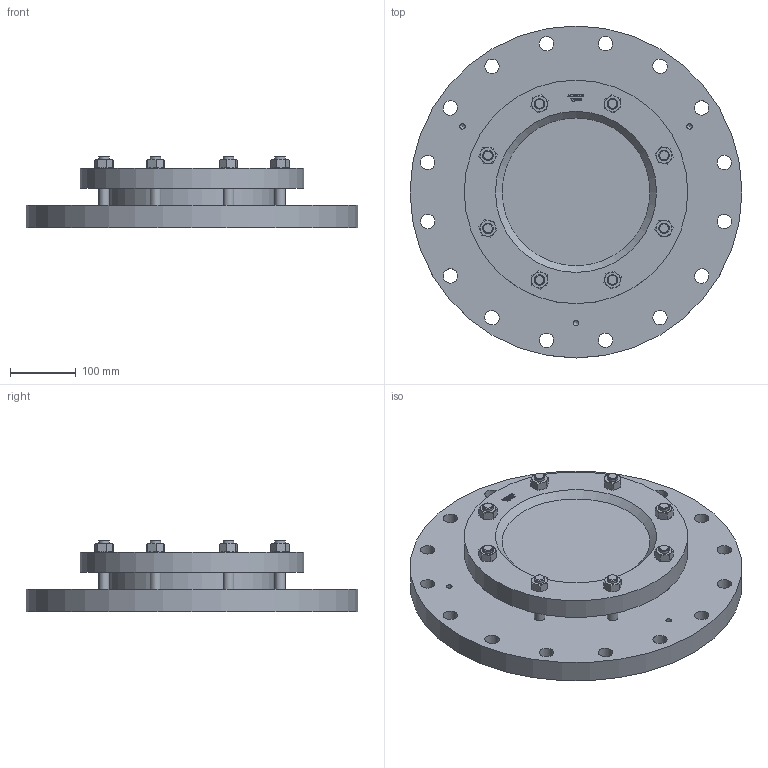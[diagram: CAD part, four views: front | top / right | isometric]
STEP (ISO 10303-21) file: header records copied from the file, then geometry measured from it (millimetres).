
FILE_DESCRIPTION(/* description */ (''),/* implementation_level */ '2;1');
FILE_NAME(/* name */ 'W:\Konstruktion_ACI\325\_STEP\325-350-10.stp',/* time_stamp */ '2022-03-02T17:05:18+01:00',/* author */ ('koslowksi'),/* organization */ (''),/* preprocessor_version */ 'ST-DEVELOPER v16.1',/* originating_system */ 'Autodesk Inventor 2016',/* authorisation */ '');
FILE_SCHEMA (('AUTOMOTIVE_DESIGN { 1 0 10303 214 3 1 1 }'));
Length unit declared in the file: millimetre
Products named in the file (1): 325-350-10
Bounding box: 505 x 505 x 109 mm (x, y, z)
Volume: 10398375.8 mm3; surface area: 637032.2 mm2
Topology: 1 solids, 1 shells, 453 faces, 1156 edges, 743 vertices
Faces by surface type: plane 199, cone 108, bspline 108, cylinder 38
Full cylindrical faces by diameter (mm): 8.376 x3, 16 x16, 22 x16, 254 x1, 340 x1, 505 x1
Entity records: 14010 total; most frequent: CARTESIAN_POINT 4037, ORIENTED_EDGE 2158, DIRECTION 1545, EDGE_CURVE 1079, VERTEX_POINT 716, EDGE_LOOP 589, AXIS2_PLACEMENT_3D 528, LINE 489
